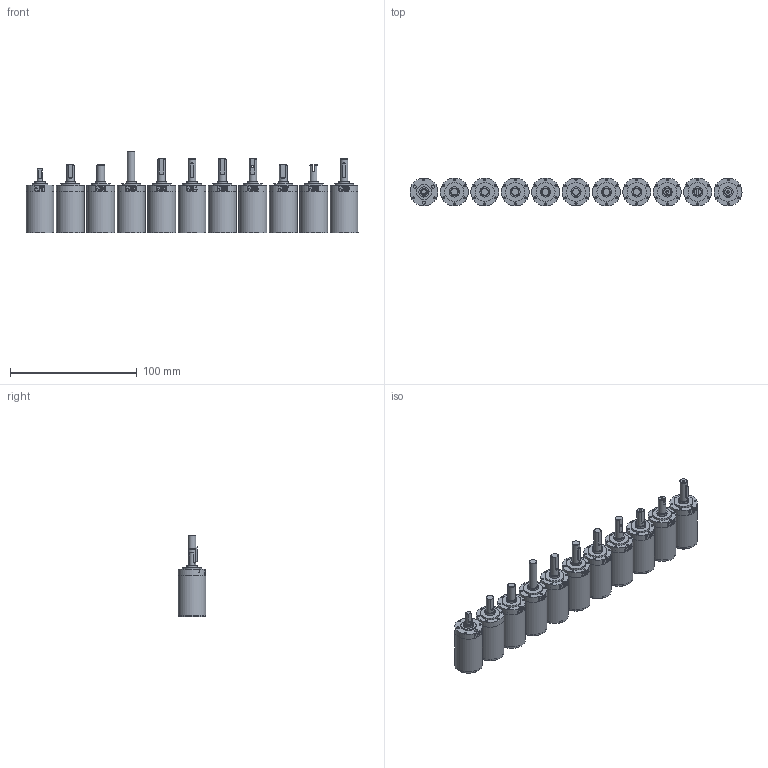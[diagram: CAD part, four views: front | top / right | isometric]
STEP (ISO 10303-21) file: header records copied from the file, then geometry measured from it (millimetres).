
FILE_DESCRIPTION(/* description */ (''),/* implementation_level */ '2;1');
FILE_NAME(/* name */ '22gpt-4stage_standard+KSx+KRx.stp',/* time_stamp */ '2023-02-02T07:53:56+01:00',/* author */ ('DR. FRITZ FAULHABER GmbH & Co. KG'),/* organization */ ('DR. FRITZ FAULHABER GmbH & Co. KG'),/* preprocessor_version */ 'ST-DEVELOPER v16.7',/* originating_system */ 'SIEMENS PLM Software NX 1919',/* authorisation */ '');
FILE_SCHEMA (('AUTOMOTIVE_DESIGN { 1 0 10303 214 3 1 1 1 }'));
Length unit declared in the file: millimetre
Products named in the file (1): H99999998-A-Alle Getriebe
Bounding box: 262 x 22 x 64.2 mm (x, y, z)
Volume: 154191.9 mm3; surface area: 45055.4 mm2
Topology: 11 solids, 11 shells, 683 faces, 1384 edges, 927 vertices
Faces by surface type: plane 320, cylinder 220, bspline 127, cone 16
Full cylindrical faces by diameter (mm): 1.6 x63, 2 x1, 2.05 x2, 2.5 x3, 4 x1, 6 x10, 8 x11, 10.068 x11, 12 x12, 15 x10, 20.8 x11, 21 x11, 21.999 x11, 22 x22
Entity records: 32733 total; most frequent: CARTESIAN_POINT 18803, ORIENTED_EDGE 2332, DIRECTION 2183, EDGE_CURVE 1166, EDGE_LOOP 1079, AXIS2_PLACEMENT_3D 1006, VERTEX_POINT 901, FACE_BOUND 696
